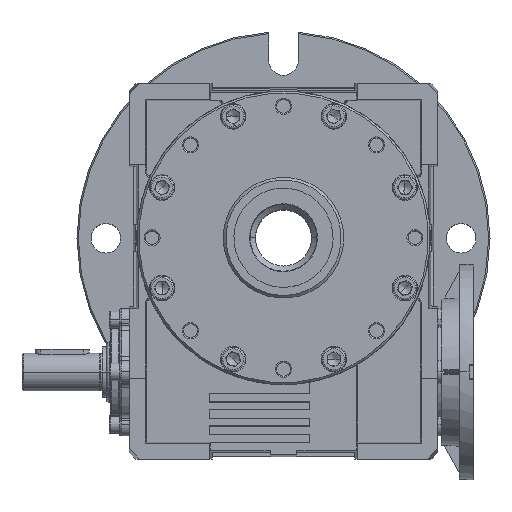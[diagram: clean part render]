
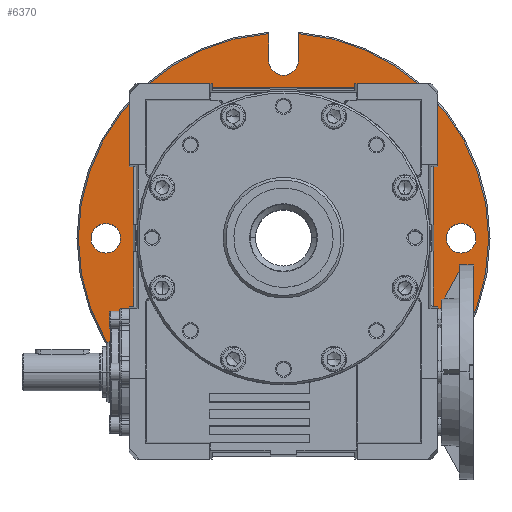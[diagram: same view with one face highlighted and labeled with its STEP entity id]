
A CAD part, top view. The second image highlights one B-rep face of the part: STEP entity #6370.
In plain terms, the highlighted planar face has unit normal (0, 0, 1).
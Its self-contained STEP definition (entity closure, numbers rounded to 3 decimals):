
#44 = VERTEX_POINT ( 'NONE', #743 ) ;
#236 = AXIS2_PLACEMENT_3D ( 'NONE', #60081, #34720, #40698 ) ;
#374 = EDGE_CURVE ( 'NONE', #44, #64486, #46284, .T. ) ;
#484 = CIRCLE ( 'NONE', #47525, 11. ) ;
#661 = VECTOR ( 'NONE', #19398, 1000. ) ;
#743 = CARTESIAN_POINT ( 'NONE',  ( -153., 0., -106. ) ) ;
#1043 = CIRCLE ( 'NONE', #16054, 11. ) ;
#1845 = CIRCLE ( 'NONE', #48850, 11. ) ;
#1967 = VERTEX_POINT ( 'NONE', #23728 ) ;
#2492 = CARTESIAN_POINT ( 'NONE',  ( 132.5, 0., -106. ) ) ;
#2661 = DIRECTION ( 'NONE',  ( -1., 0., 0. ) ) ;
#4069 = DIRECTION ( 'NONE',  ( -1., 0., 0. ) ) ;
#4152 = ORIENTED_EDGE ( 'NONE', *, *, #52066, .T. ) ;
#4328 = CIRCLE ( 'NONE', #28900, 109.5 ) ;
#4892 = CARTESIAN_POINT ( 'NONE',  ( -109.5, 0., -106. ) ) ;
#5079 = CARTESIAN_POINT ( 'NONE',  ( 11., 132.5, -106. ) ) ;
#5233 = CARTESIAN_POINT ( 'NONE',  ( 0., -132.5, -106. ) ) ;
#6370 = ADVANCED_FACE ( 'NONE', ( #35402, #19035, #55768, #19708, #8983 ), #39742, .F. ) ;
#6467 = ORIENTED_EDGE ( 'NONE', *, *, #23193, .T. ) ;
#7208 = DIRECTION ( 'NONE',  ( 0., 0., -1. ) ) ;
#7557 = EDGE_LOOP ( 'NONE', ( #46904, #9353 ) ) ;
#7703 = CARTESIAN_POINT ( 'NONE',  ( 132.5, 0., -106. ) ) ;
#8246 = CIRCLE ( 'NONE', #49923, 11. ) ;
#8983 = FACE_BOUND ( 'NONE', #23757, .T. ) ;
#9353 = ORIENTED_EDGE ( 'NONE', *, *, #25247, .T. ) ;
#9647 = DIRECTION ( 'NONE',  ( 0., 0., -1. ) ) ;
#11906 = CARTESIAN_POINT ( 'NONE',  ( -132.5, 0., -106. ) ) ;
#13110 = ORIENTED_EDGE ( 'NONE', *, *, #56215, .F. ) ;
#13877 = VERTEX_POINT ( 'NONE', #46291 ) ;
#14467 = CARTESIAN_POINT ( 'NONE',  ( 11., 152.604, -106. ) ) ;
#14537 = DIRECTION ( 'NONE',  ( 0., 0., 1. ) ) ;
#14993 = CARTESIAN_POINT ( 'NONE',  ( 0., 0., -106. ) ) ;
#15110 = CIRCLE ( 'NONE', #30056, 11. ) ;
#15112 = EDGE_CURVE ( 'NONE', #17475, #63829, #65484, .T. ) ;
#15230 = ORIENTED_EDGE ( 'NONE', *, *, #374, .T. ) ;
#15669 = DIRECTION ( 'NONE',  ( 0., 0., 1. ) ) ;
#15700 = DIRECTION ( 'NONE',  ( 0., 1., 0. ) ) ;
#16054 = AXIS2_PLACEMENT_3D ( 'NONE', #5233, #66081, #61049 ) ;
#16314 = EDGE_LOOP ( 'NONE', ( #54507, #15230, #6467, #25685, #50146, #17751 ) ) ;
#17448 = CIRCLE ( 'NONE', #47360, 11. ) ;
#17475 = VERTEX_POINT ( 'NONE', #14467 ) ;
#17498 = EDGE_CURVE ( 'NONE', #60370, #1967, #15110, .T. ) ;
#17751 = ORIENTED_EDGE ( 'NONE', *, *, #22827, .T. ) ;
#18041 = CARTESIAN_POINT ( 'NONE',  ( 153., 0., -106. ) ) ;
#19035 = FACE_BOUND ( 'NONE', #29643, .T. ) ;
#19398 = DIRECTION ( 'NONE',  ( 0., -1., 0. ) ) ;
#19708 = FACE_OUTER_BOUND ( 'NONE', #16314, .T. ) ;
#19980 = ORIENTED_EDGE ( 'NONE', *, *, #39302, .F. ) ;
#20105 = VERTEX_POINT ( 'NONE', #30978 ) ;
#20514 = CARTESIAN_POINT ( 'NONE',  ( 0., 0., -106. ) ) ;
#21882 = EDGE_LOOP ( 'NONE', ( #25314, #33053 ) ) ;
#21914 = DIRECTION ( 'NONE',  ( 0., 0., -1. ) ) ;
#22765 = CARTESIAN_POINT ( 'NONE',  ( 121.5, 0., -106. ) ) ;
#22827 = EDGE_CURVE ( 'NONE', #37716, #58437, #50818, .T. ) ;
#23193 = EDGE_CURVE ( 'NONE', #64486, #17475, #51508, .T. ) ;
#23728 = CARTESIAN_POINT ( 'NONE',  ( -121.5, 0., -106. ) ) ;
#23757 = EDGE_LOOP ( 'NONE', ( #19980, #13110 ) ) ;
#24507 = CARTESIAN_POINT ( 'NONE',  ( -132.5, 0., -106. ) ) ;
#25173 = DIRECTION ( 'NONE',  ( -1., 0., 0. ) ) ;
#25247 = EDGE_CURVE ( 'NONE', #1967, #60370, #17448, .T. ) ;
#25314 = ORIENTED_EDGE ( 'NONE', *, *, #49527, .T. ) ;
#25685 = ORIENTED_EDGE ( 'NONE', *, *, #15112, .T. ) ;
#27618 = DIRECTION ( 'NONE',  ( -1., 0., 0. ) ) ;
#27662 = AXIS2_PLACEMENT_3D ( 'NONE', #31597, #21914, #62979 ) ;
#28003 = VECTOR ( 'NONE', #15700, 1000. ) ;
#28127 = AXIS2_PLACEMENT_3D ( 'NONE', #20514, #59581, #25173 ) ;
#28472 = CIRCLE ( 'NONE', #65790, 109.5 ) ;
#28478 = CIRCLE ( 'NONE', #47712, 153. ) ;
#28900 = AXIS2_PLACEMENT_3D ( 'NONE', #14993, #66112, #40379 ) ;
#29608 = EDGE_CURVE ( 'NONE', #47227, #47479, #1845, .T. ) ;
#29643 = EDGE_LOOP ( 'NONE', ( #4152, #34215 ) ) ;
#30056 = AXIS2_PLACEMENT_3D ( 'NONE', #24507, #40179, #4069 ) ;
#30724 = CARTESIAN_POINT ( 'NONE',  ( 0., 0., -106. ) ) ;
#30978 = CARTESIAN_POINT ( 'NONE',  ( 109.5, 0., -106. ) ) ;
#31161 = DIRECTION ( 'NONE',  ( 0., 0., -1. ) ) ;
#31597 = CARTESIAN_POINT ( 'NONE',  ( 0., 132.5, -106. ) ) ;
#31820 = CARTESIAN_POINT ( 'NONE',  ( 0., -132.5, -106. ) ) ;
#32032 = EDGE_CURVE ( 'NONE', #13877, #59295, #1043, .T. ) ;
#32494 = DIRECTION ( 'NONE',  ( -1., 0., 0. ) ) ;
#33053 = ORIENTED_EDGE ( 'NONE', *, *, #29608, .T. ) ;
#33286 = DIRECTION ( 'NONE',  ( 0., 0., -1. ) ) ;
#34215 = ORIENTED_EDGE ( 'NONE', *, *, #32032, .T. ) ;
#34720 = DIRECTION ( 'NONE',  ( 0., 0., 1. ) ) ;
#34932 = DIRECTION ( 'NONE',  ( 1., 0., 0. ) ) ;
#35402 = FACE_BOUND ( 'NONE', #21882, .T. ) ;
#36407 = DIRECTION ( 'NONE',  ( -1., 0., 0. ) ) ;
#36664 = DIRECTION ( 'NONE',  ( -1., 0., 0. ) ) ;
#37716 = VERTEX_POINT ( 'NONE', #44349 ) ;
#39302 = EDGE_CURVE ( 'NONE', #20105, #61365, #28472, .T. ) ;
#39742 = PLANE ( 'NONE',  #62832 ) ;
#40179 = DIRECTION ( 'NONE',  ( 0., 0., -1. ) ) ;
#40379 = DIRECTION ( 'NONE',  ( 1., 0., 0. ) ) ;
#40698 = DIRECTION ( 'NONE',  ( -1., 0., 0. ) ) ;
#42513 = EDGE_CURVE ( 'NONE', #63829, #37716, #56426, .T. ) ;
#43799 = CARTESIAN_POINT ( 'NONE',  ( 11., 109.5, -106. ) ) ;
#44349 = CARTESIAN_POINT ( 'NONE',  ( -11., 132.5, -106. ) ) ;
#44767 = DIRECTION ( 'NONE',  ( -1., 0., 0. ) ) ;
#45152 = CARTESIAN_POINT ( 'NONE',  ( -11., 109.5, -106. ) ) ;
#46284 = CIRCLE ( 'NONE', #28127, 153. ) ;
#46291 = CARTESIAN_POINT ( 'NONE',  ( 11., -132.5, -106. ) ) ;
#46904 = ORIENTED_EDGE ( 'NONE', *, *, #17498, .T. ) ;
#47227 = VERTEX_POINT ( 'NONE', #61972 ) ;
#47360 = AXIS2_PLACEMENT_3D ( 'NONE', #11906, #7208, #36664 ) ;
#47479 = VERTEX_POINT ( 'NONE', #22765 ) ;
#47525 = AXIS2_PLACEMENT_3D ( 'NONE', #7703, #58482, #2661 ) ;
#47583 = CARTESIAN_POINT ( 'NONE',  ( -11., 152.604, -106. ) ) ;
#47712 = AXIS2_PLACEMENT_3D ( 'NONE', #30724, #15669, #36407 ) ;
#48850 = AXIS2_PLACEMENT_3D ( 'NONE', #2492, #33286, #27618 ) ;
#49527 = EDGE_CURVE ( 'NONE', #47479, #47227, #484, .T. ) ;
#49923 = AXIS2_PLACEMENT_3D ( 'NONE', #31820, #31161, #32494 ) ;
#50146 = ORIENTED_EDGE ( 'NONE', *, *, #42513, .T. ) ;
#50818 = LINE ( 'NONE', #45152, #28003 ) ;
#51279 = EDGE_CURVE ( 'NONE', #58437, #44, #28478, .T. ) ;
#51508 = CIRCLE ( 'NONE', #236, 153. ) ;
#52066 = EDGE_CURVE ( 'NONE', #59295, #13877, #8246, .T. ) ;
#54507 = ORIENTED_EDGE ( 'NONE', *, *, #51279, .T. ) ;
#55768 = FACE_BOUND ( 'NONE', #7557, .T. ) ;
#56215 = EDGE_CURVE ( 'NONE', #61365, #20105, #4328, .T. ) ;
#56426 = CIRCLE ( 'NONE', #27662, 11. ) ;
#58437 = VERTEX_POINT ( 'NONE', #47583 ) ;
#58482 = DIRECTION ( 'NONE',  ( 0., 0., -1. ) ) ;
#59295 = VERTEX_POINT ( 'NONE', #60191 ) ;
#59581 = DIRECTION ( 'NONE',  ( 0., 0., 1. ) ) ;
#59629 = CARTESIAN_POINT ( 'NONE',  ( 0., 0., -106. ) ) ;
#59779 = CARTESIAN_POINT ( 'NONE',  ( 0., 109.5, -106. ) ) ;
#60081 = CARTESIAN_POINT ( 'NONE',  ( 0., 0., -106. ) ) ;
#60191 = CARTESIAN_POINT ( 'NONE',  ( -11., -132.5, -106. ) ) ;
#60370 = VERTEX_POINT ( 'NONE', #63672 ) ;
#61049 = DIRECTION ( 'NONE',  ( -1., 0., 0. ) ) ;
#61365 = VERTEX_POINT ( 'NONE', #4892 ) ;
#61972 = CARTESIAN_POINT ( 'NONE',  ( 143.5, 0., -106. ) ) ;
#62832 = AXIS2_PLACEMENT_3D ( 'NONE', #59779, #9647, #44767 ) ;
#62979 = DIRECTION ( 'NONE',  ( -1., 0., 0. ) ) ;
#63672 = CARTESIAN_POINT ( 'NONE',  ( -143.5, 0., -106. ) ) ;
#63829 = VERTEX_POINT ( 'NONE', #5079 ) ;
#64486 = VERTEX_POINT ( 'NONE', #18041 ) ;
#65484 = LINE ( 'NONE', #43799, #661 ) ;
#65790 = AXIS2_PLACEMENT_3D ( 'NONE', #59629, #14537, #34932 ) ;
#66081 = DIRECTION ( 'NONE',  ( 0., 0., -1. ) ) ;
#66112 = DIRECTION ( 'NONE',  ( 0., 0., 1. ) ) ;
